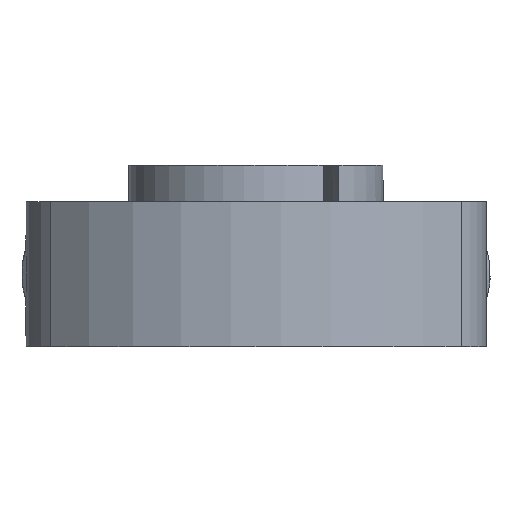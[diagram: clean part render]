
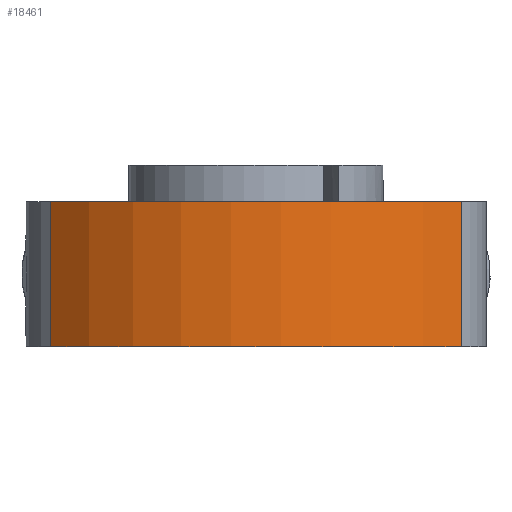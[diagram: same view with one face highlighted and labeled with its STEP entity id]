
A CAD part, front view. The second image highlights one B-rep face of the part: STEP entity #18461.
In plain terms, the highlighted cylindrical face has radius 16 mm (diameter 32 mm), a partial arc.
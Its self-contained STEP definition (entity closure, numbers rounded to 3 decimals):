
#1301 = DIRECTION ( 'NONE',  ( 0., 0., -1. ) ) ;
#3820 = CARTESIAN_POINT ( 'NONE',  ( 0., 0., -4. ) ) ;
#5388 = VERTEX_POINT ( 'NONE', #39041 ) ;
#5869 = VERTEX_POINT ( 'NONE', #54660 ) ;
#8168 = ORIENTED_EDGE ( 'NONE', *, *, #43924, .T. ) ;
#9229 = CARTESIAN_POINT ( 'NONE',  ( 0., 0., 4. ) ) ;
#10722 = FACE_OUTER_BOUND ( 'NONE', #37444, .T. ) ;
#12527 = ORIENTED_EDGE ( 'NONE', *, *, #20458, .T. ) ;
#13507 = VECTOR ( 'NONE', #24903, 1000. ) ;
#15951 = CARTESIAN_POINT ( 'NONE',  ( -11.314, -11.314, 4. ) ) ;
#16672 = LINE ( 'NONE', #21552, #37757 ) ;
#18232 = EDGE_CURVE ( 'NONE', #34752, #5869, #16672, .T. ) ;
#18461 = ADVANCED_FACE ( 'NONE', ( #10722 ), #31112, .T. ) ;
#20458 = EDGE_CURVE ( 'NONE', #5869, #5388, #51541, .T. ) ;
#21422 = AXIS2_PLACEMENT_3D ( 'NONE', #9229, #30587, #43110 ) ;
#21552 = CARTESIAN_POINT ( 'NONE',  ( -11.314, -11.314, 4. ) ) ;
#24698 = LINE ( 'NONE', #29509, #13507 ) ;
#24903 = DIRECTION ( 'NONE',  ( 0., 0., -1. ) ) ;
#25151 = DIRECTION ( 'NONE',  ( 0., 0., 1. ) ) ;
#28636 = ORIENTED_EDGE ( 'NONE', *, *, #18232, .T. ) ;
#28853 = AXIS2_PLACEMENT_3D ( 'NONE', #39248, #1301, #30749 ) ;
#29509 = CARTESIAN_POINT ( 'NONE',  ( 11.314, -11.314, -4. ) ) ;
#29590 = DIRECTION ( 'NONE',  ( -1., 0., 0. ) ) ;
#30587 = DIRECTION ( 'NONE',  ( 0., 0., -1. ) ) ;
#30749 = DIRECTION ( 'NONE',  ( -1., 0., 0. ) ) ;
#31112 = CYLINDRICAL_SURFACE ( 'NONE', #28853, 16. ) ;
#33509 = DIRECTION ( 'NONE',  ( 0., 0., -1. ) ) ;
#34752 = VERTEX_POINT ( 'NONE', #15951 ) ;
#34799 = CARTESIAN_POINT ( 'NONE',  ( 11.314, -11.314, 4. ) ) ;
#37444 = EDGE_LOOP ( 'NONE', ( #8168, #28636, #12527, #45951 ) ) ;
#37757 = VECTOR ( 'NONE', #33509, 1000. ) ;
#39041 = CARTESIAN_POINT ( 'NONE',  ( 11.314, -11.314, -4. ) ) ;
#39248 = CARTESIAN_POINT ( 'NONE',  ( 0., 0., 4. ) ) ;
#39335 = CIRCLE ( 'NONE', #21422, 16. ) ;
#43110 = DIRECTION ( 'NONE',  ( -1., 0., 0. ) ) ;
#43924 = EDGE_CURVE ( 'NONE', #54386, #34752, #39335, .T. ) ;
#45497 = AXIS2_PLACEMENT_3D ( 'NONE', #3820, #25151, #29590 ) ;
#45951 = ORIENTED_EDGE ( 'NONE', *, *, #46286, .F. ) ;
#46286 = EDGE_CURVE ( 'NONE', #54386, #5388, #24698, .T. ) ;
#51541 = CIRCLE ( 'NONE', #45497, 16. ) ;
#54386 = VERTEX_POINT ( 'NONE', #34799 ) ;
#54660 = CARTESIAN_POINT ( 'NONE',  ( -11.314, -11.314, -4. ) ) ;
